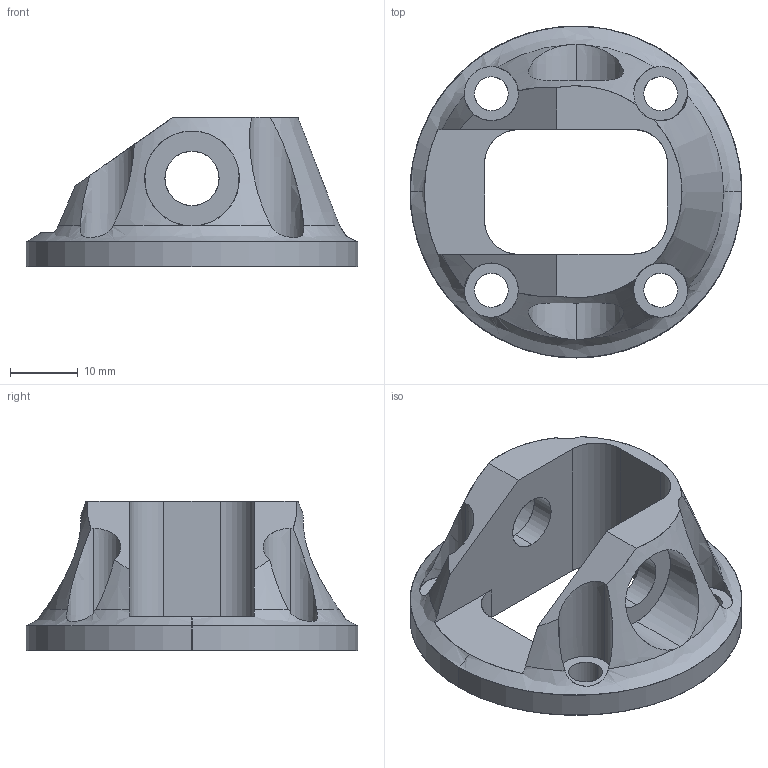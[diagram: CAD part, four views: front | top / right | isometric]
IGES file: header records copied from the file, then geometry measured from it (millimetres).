
Start section: SolidWorks IGES file using analytic representation for surfaces
Global section: file name: G:\Budini\2014\AttaccoSospensione08_M5.IGS; native system: SolidWorks 2010; preprocessor: SolidWorks 2010; author: user; date: 140516.013310; units: millimetre
Bounding box: 49 x 49 x 22 mm (x, y, z)
Surface area: 7151.2 mm2 (no closed solid volume)
Topology: 0 solids, 0 shells, 52 faces, 1379 edges, 1379 vertices
Faces by surface type: revolution 35, bspline 17
